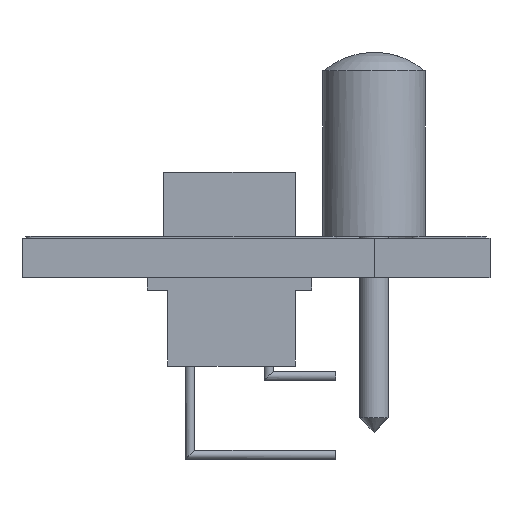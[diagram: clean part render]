
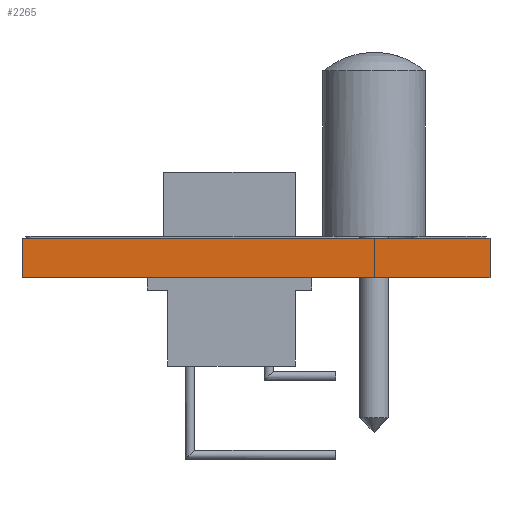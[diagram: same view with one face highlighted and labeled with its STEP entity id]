
A CAD part, front view. The second image highlights one B-rep face of the part: STEP entity #2265.
In plain terms, the highlighted planar face has unit normal (0, -1, 0).
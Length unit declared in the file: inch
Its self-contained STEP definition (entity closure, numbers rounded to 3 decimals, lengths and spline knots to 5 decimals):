
#9=DIRECTION('',(1.,0.,0.));
#10=VECTOR('',#9,1.188);
#11=CARTESIAN_POINT('',(-0.005,-6.381,0.));
#12=LINE('',#11,#10);
#159=DIRECTION('',(0.,0.,1.));
#160=VECTOR('',#159,0.1);
#161=CARTESIAN_POINT('',(1.183,-6.381,0.));
#162=LINE('',#161,#160);
#163=DIRECTION('',(0.,0.,1.));
#164=VECTOR('',#163,0.1);
#165=CARTESIAN_POINT('',(-0.005,-6.381,0.));
#166=LINE('',#165,#164);
#179=DIRECTION('',(1.,0.,0.));
#180=VECTOR('',#179,1.188);
#181=CARTESIAN_POINT('',(-0.005,-6.381,0.1));
#182=LINE('',#181,#180);
#1711=CARTESIAN_POINT('',(-0.005,-6.381,0.));
#1712=VERTEX_POINT('',#1711);
#1713=CARTESIAN_POINT('',(1.183,-6.381,0.));
#1714=VERTEX_POINT('',#1713);
#1727=CARTESIAN_POINT('',(-0.005,-6.381,0.1));
#1728=VERTEX_POINT('',#1727);
#1729=CARTESIAN_POINT('',(1.183,-6.381,0.1));
#1730=VERTEX_POINT('',#1729);
#2252=CARTESIAN_POINT('',(-0.005,-6.381,0.));
#2253=DIRECTION('',(0.,-1.,0.));
#2254=DIRECTION('',(1.,0.,0.));
#2255=AXIS2_PLACEMENT_3D('',#2252,#2253,#2254);
#2256=PLANE('',#2255);
#2257=ORIENTED_EDGE('',*,*,#2136,.F.);
#2259=ORIENTED_EDGE('',*,*,#2258,.T.);
#2261=ORIENTED_EDGE('',*,*,#2260,.T.);
#2262=ORIENTED_EDGE('',*,*,#2244,.F.);
#2263=EDGE_LOOP('',(#2257,#2259,#2261,#2262));
#2264=FACE_OUTER_BOUND('',#2263,.F.);
#2265=ADVANCED_FACE('',(#2264),#2256,.T.);
#2136=EDGE_CURVE('',#1712,#1714,#12,.T.);
#2244=EDGE_CURVE('',#1714,#1730,#162,.T.);
#2258=EDGE_CURVE('',#1712,#1728,#166,.T.);
#2260=EDGE_CURVE('',#1728,#1730,#182,.T.);
